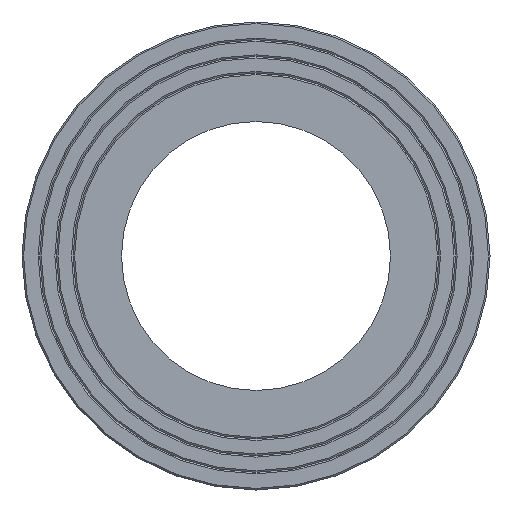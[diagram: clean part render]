
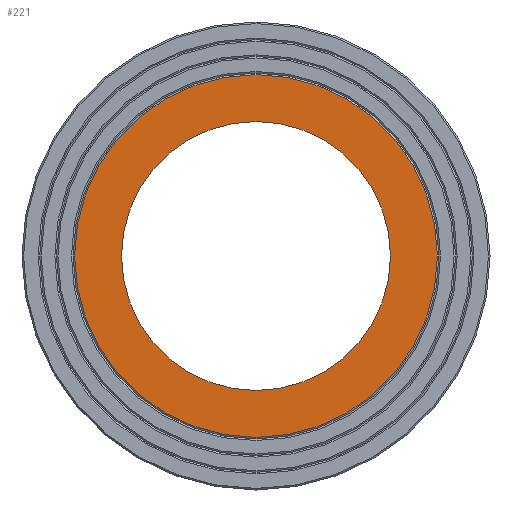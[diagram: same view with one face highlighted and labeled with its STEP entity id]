
A CAD part, left-side view. The second image highlights one B-rep face of the part: STEP entity #221.
In plain terms, the highlighted planar face has unit normal (-1, 0, 0).
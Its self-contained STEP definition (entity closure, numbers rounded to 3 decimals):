
#36=ORIENTED_EDGE('',*,*,#76,.F.);
#37=ORIENTED_EDGE('',*,*,#77,.T.);
#76=EDGE_CURVE('',#96,#96,#116,.T.);
#77=EDGE_CURVE('',#97,#97,#117,.T.);
#96=VERTEX_POINT('',#383);
#97=VERTEX_POINT('',#385);
#116=CIRCLE('',#257,129.);
#117=CIRCLE('',#258,174.);
#136=EDGE_LOOP('',(#36));
#137=EDGE_LOOP('',(#37));
#176=FACE_BOUND('',#136,.T.);
#177=FACE_BOUND('',#137,.T.);
#215=PLANE('',#256);
#221=ADVANCED_FACE('',(#176,#177),#215,.F.);
#256=AXIS2_PLACEMENT_3D('',#381,#301,#302);
#257=AXIS2_PLACEMENT_3D('',#382,#303,#304);
#258=AXIS2_PLACEMENT_3D('',#384,#305,#306);
#301=DIRECTION('',(1.,0.,0.));
#302=DIRECTION('',(0.,0.,-1.));
#303=DIRECTION('',(-1.,0.,0.));
#304=DIRECTION('',(0.,0.,1.));
#305=DIRECTION('',(-1.,0.,0.));
#306=DIRECTION('',(0.,0.,1.));
#381=CARTESIAN_POINT('',(0.,0.,224.5));
#382=CARTESIAN_POINT('',(0.,0.,0.));
#383=CARTESIAN_POINT('',(0.,0.,129.));
#384=CARTESIAN_POINT('',(0.,0.,0.));
#385=CARTESIAN_POINT('',(0.,0.,174.));
